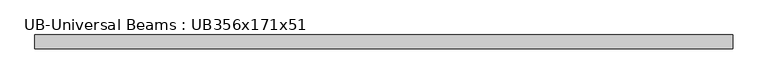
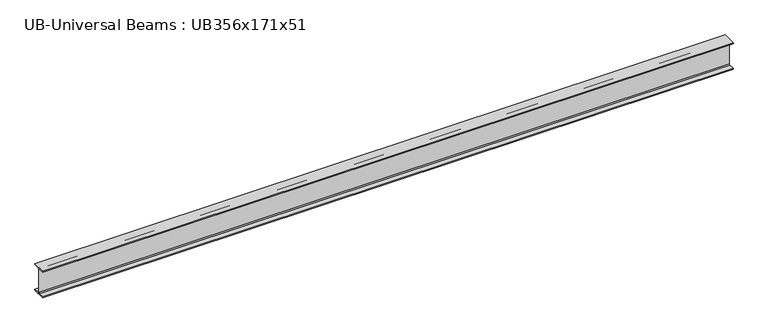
"""IFC4 building model written with IfcOpenShell, lengths in millimetres: beam geometry, UB-Universal Beams : UB356x171x51."""

from ifc_helpers import new_model, si_unit, point, frame, frame_2d, origin, place, context, project, spatial, polyline, circle_curve, trimmed, segment, composite_curve, outline, extrude, source, transform, mapped, element, save


def ub_universal_beams_ub356x171x51_fa75724b(model_context):
    return source(origin(), model_context, "Body", "SweptSolid", [
        extrude(outline(composite_curve([segment(polyline([(85.75, -166.0), (85.75, -177.5), (-85.75, -177.5), (-85.75, -166.0), (-13.9, -166.0)]), True, "CONTINUOUS"), segment(trimmed(circle_curve(frame_2d((-13.9, -155.8)), 10.2), [point((-13.9, -166.0))], [point((-3.7, -155.8))], True, "CARTESIAN"), True, "CONTINUOUS"), segment(polyline([(-3.7, -155.8), (-3.7, 155.8)]), True, "CONTINUOUS"), segment(trimmed(circle_curve(frame_2d((-13.9, 155.8)), 10.2), [point((-3.7, 155.8))], [point((-13.9, 166.0))], True, "CARTESIAN"), True, "CONTINUOUS"), segment(polyline([(-13.9, 166.0), (-85.75, 166.0), (-85.75, 177.5), (85.75, 177.5), (85.75, 166.0), (13.9, 166.0)]), True, "CONTINUOUS"), segment(trimmed(circle_curve(frame_2d((13.9, 155.8)), 10.2), [point((13.9, 166.0))], [point((3.7, 155.8))], True, "CARTESIAN"), True, "CONTINUOUS"), segment(polyline([(3.7, 155.8), (3.7, -155.8)]), True, "CONTINUOUS"), segment(trimmed(circle_curve(frame_2d((13.9, -155.8)), 10.2), [point((3.7, -155.8))], [point((13.9, -166.0))], True, "CARTESIAN"), True, "CONTINUOUS"), segment(polyline([(13.9, -166.0), (85.75, -166.0)]), True, "CONTINUOUS")], self_intersect=False)), frame((-4406.6, 0.0, 0.0), z_axis=(1.0, 0.0, 0.0), x_axis=(0.0, 1.0, 0.0)), (0.0, 0.0, 1.0), 8753.2),
    ])


if __name__ == "__main__":
    model = new_model("IFC4")
    model_context = context("Model", 3, world=origin())
    ifc_project = project(units=[si_unit("LENGTHUNIT", "METRE", prefix="MILLI")], contexts=[model_context])
    site = spatial("IfcSite", under=ifc_project)
    building = spatial("IfcBuilding", under=site)
    placement = place(None, origin())
    ub_universal_beams_ub356x171x51_shape = ub_universal_beams_ub356x171x51_fa75724b(model_context)
    element("IfcBeam", 1, ObjectType="UB-Universal Beams : UB356x171x51", at=placement, inside=building, context=model_context, shape_type="MappedRepresentation", body=[
        mapped(ub_universal_beams_ub356x171x51_shape, transform((0.0, 0.0, 0.0), x_axis=(1.0, 0.0, 0.0), y_axis=(0.0, 1.0, 0.0), z_axis=(0.0, 0.0, 1.0))),
    ])
    save(model, "model.ifc")
